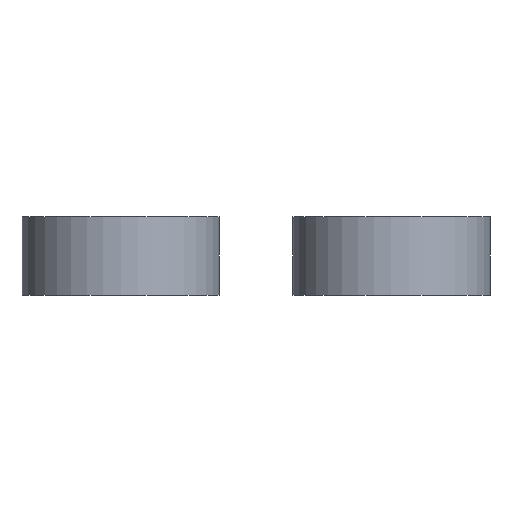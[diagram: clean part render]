
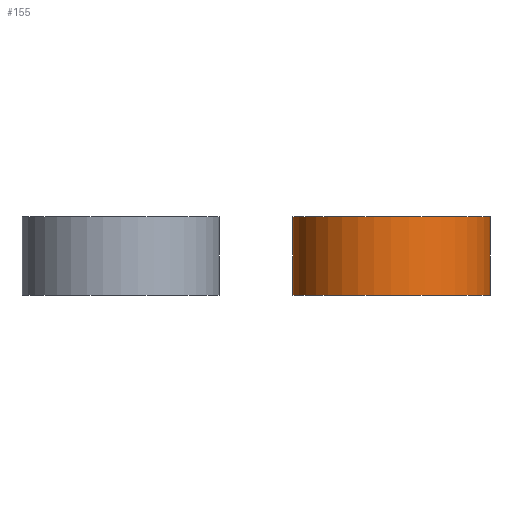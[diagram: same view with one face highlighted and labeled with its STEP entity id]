
A CAD part, left-side view. The second image highlights one B-rep face of the part: STEP entity #155.
In plain terms, the highlighted cylindrical face has radius 2.5 mm (diameter 5 mm), a full revolution.
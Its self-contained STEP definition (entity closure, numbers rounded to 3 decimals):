
#155=ADVANCED_FACE('',(#367,#369),#371,.T.);
#367=FACE_OUTER_BOUND('',#368,.T.);
#368=EDGE_LOOP('',(#532));
#369=FACE_OUTER_BOUND('',#370,.T.);
#370=EDGE_LOOP('',(#533));
#371=CYLINDRICAL_SURFACE('',#372,2.5);
#372=AXIS2_PLACEMENT_3D('',#373,#374,#375);
#373=CARTESIAN_POINT('',(0.,0.,0.));
#374=DIRECTION('',(0.,0.,1.));
#375=DIRECTION('',(1.,0.,0.));
#532=ORIENTED_EDGE('',*,*,#562,.F.);
#533=ORIENTED_EDGE('',*,*,#563,.T.);
#562=EDGE_CURVE('',#580,#580,#581,.T.);
#563=EDGE_CURVE('',#582,#582,#583,.T.);
#580=VERTEX_POINT('',#618);
#581=CIRCLE('',#619,2.5);
#582=VERTEX_POINT('',#623);
#583=CIRCLE('',#624,2.5);
#618=CARTESIAN_POINT('',(2.5,0.,2.));
#619=AXIS2_PLACEMENT_3D('',#620,#621,#622);
#620=CARTESIAN_POINT('',(0.,0.,2.));
#621=DIRECTION('',(0.,0.,1.));
#622=DIRECTION('',(1.,0.,0.));
#623=CARTESIAN_POINT('',(2.5,0.,0.));
#624=AXIS2_PLACEMENT_3D('',#625,#626,#627);
#625=CARTESIAN_POINT('',(0.,0.,0.));
#626=DIRECTION('',(0.,0.,1.));
#627=DIRECTION('',(1.,0.,0.));
